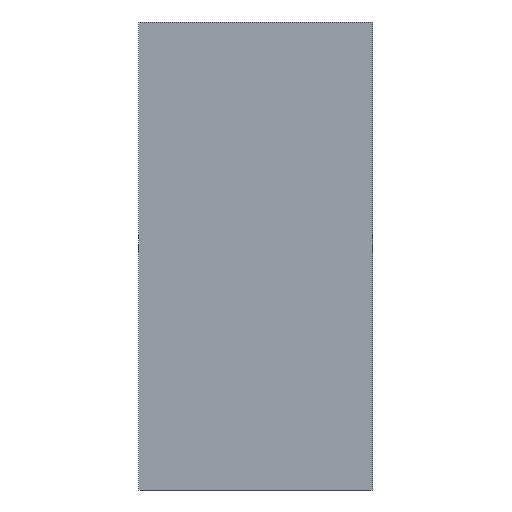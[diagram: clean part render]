
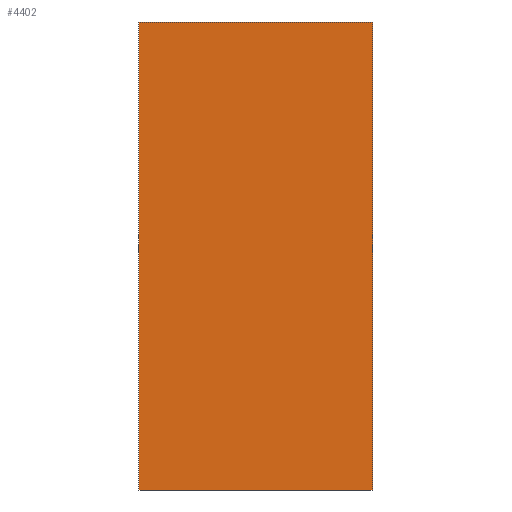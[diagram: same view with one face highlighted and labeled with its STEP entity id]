
A CAD part, left-side view. The second image highlights one B-rep face of the part: STEP entity #4402.
In plain terms, the highlighted planar face has unit normal (-1, 0, 0).
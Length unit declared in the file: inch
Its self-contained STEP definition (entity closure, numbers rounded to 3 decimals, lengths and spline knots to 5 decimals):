
#242 = VECTOR ( 'NONE', #2644, 39.37008 ) ;
#300 = DIRECTION ( 'NONE',  ( 0., 0., -1. ) ) ;
#349 = CARTESIAN_POINT ( 'NONE',  ( 0., 10., -10. ) ) ;
#388 = EDGE_CURVE ( 'NONE', #1921, #4425, #2840, .T. ) ;
#461 = EDGE_CURVE ( 'NONE', #4425, #2410, #5987, .T. ) ;
#573 = CARTESIAN_POINT ( 'NONE',  ( 0., 0., 10. ) ) ;
#1412 = DIRECTION ( 'NONE',  ( 0., -1., 0. ) ) ;
#1598 = CARTESIAN_POINT ( 'NONE',  ( 0., 10., 10. ) ) ;
#1759 = VECTOR ( 'NONE', #300, 39.37008 ) ;
#1921 = VERTEX_POINT ( 'NONE', #1598 ) ;
#1977 = CARTESIAN_POINT ( 'NONE',  ( 0., 0., -10. ) ) ;
#2410 = VERTEX_POINT ( 'NONE', #5191 ) ;
#2487 = DIRECTION ( 'NONE',  ( 0., -1., 0. ) ) ;
#2572 = CARTESIAN_POINT ( 'NONE',  ( 0., 0., 10. ) ) ;
#2644 = DIRECTION ( 'NONE',  ( 0., 0., -1. ) ) ;
#2840 = LINE ( 'NONE', #4902, #1759 ) ;
#2923 = DIRECTION ( 'NONE',  ( 0., 0., -1. ) ) ;
#3607 = VECTOR ( 'NONE', #2487, 39.37008 ) ;
#3696 = AXIS2_PLACEMENT_3D ( 'NONE', #5049, #4951, #2923 ) ;
#4246 = EDGE_CURVE ( 'NONE', #1921, #5132, #6174, .T. ) ;
#4402 = ADVANCED_FACE ( 'NONE', ( #5475 ), #6037, .F. ) ;
#4425 = VERTEX_POINT ( 'NONE', #349 ) ;
#4619 = ORIENTED_EDGE ( 'NONE', *, *, #4246, .F. ) ;
#4639 = EDGE_CURVE ( 'NONE', #5132, #2410, #5705, .T. ) ;
#4745 = EDGE_LOOP ( 'NONE', ( #5173, #6054, #4619, #5128 ) ) ;
#4882 = VECTOR ( 'NONE', #1412, 39.37008 ) ;
#4902 = CARTESIAN_POINT ( 'NONE',  ( 0., 10., 10. ) ) ;
#4951 = DIRECTION ( 'NONE',  ( 1., 0., 0. ) ) ;
#5044 = CARTESIAN_POINT ( 'NONE',  ( 0., 0., 10. ) ) ;
#5049 = CARTESIAN_POINT ( 'NONE',  ( 0., 0., 10. ) ) ;
#5128 = ORIENTED_EDGE ( 'NONE', *, *, #388, .T. ) ;
#5132 = VERTEX_POINT ( 'NONE', #2572 ) ;
#5173 = ORIENTED_EDGE ( 'NONE', *, *, #461, .T. ) ;
#5191 = CARTESIAN_POINT ( 'NONE',  ( 0., 0., -10. ) ) ;
#5475 = FACE_OUTER_BOUND ( 'NONE', #4745, .T. ) ;
#5705 = LINE ( 'NONE', #573, #242 ) ;
#5987 = LINE ( 'NONE', #1977, #3607 ) ;
#6037 = PLANE ( 'NONE',  #3696 ) ;
#6054 = ORIENTED_EDGE ( 'NONE', *, *, #4639, .F. ) ;
#6174 = LINE ( 'NONE', #5044, #4882 ) ;
